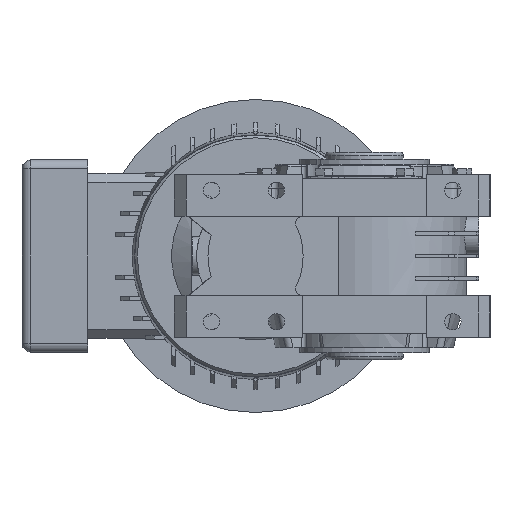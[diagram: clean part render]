
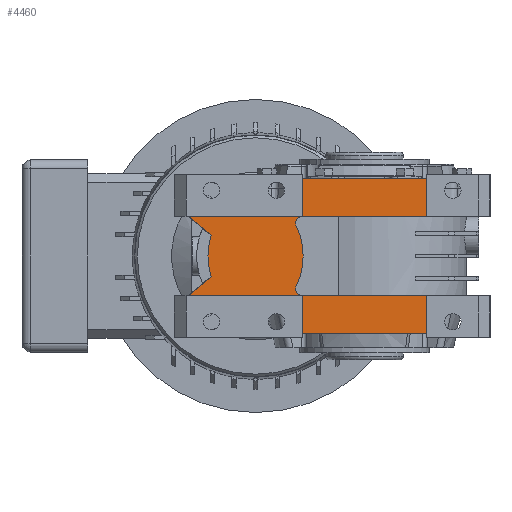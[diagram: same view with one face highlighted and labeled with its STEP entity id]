
A CAD part, left-side view. The second image highlights one B-rep face of the part: STEP entity #4460.
In plain terms, the highlighted planar face has unit normal (-1, 0, 0).
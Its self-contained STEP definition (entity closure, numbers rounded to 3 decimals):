
#4460 = ADVANCED_FACE( '', ( #9248 ), #9249, .T. );
#9248 = FACE_OUTER_BOUND( '', #17129, .T. );
#9249 = PLANE( '', #17130 );
#17129 = EDGE_LOOP( '', ( #31101, #31102, #31103, #31104, #31105, #31106, #31107, #31108, #31109, #31110, #31111, #31112, #31113, #31114, #31115, #31116, #31117, #31118 ) );
#17130 = AXIS2_PLACEMENT_3D( '', #31119, #31120, #31121 );
#31101 = ORIENTED_EDGE( '', *, *, #36991, .T. );
#31102 = ORIENTED_EDGE( '', *, *, #37288, .T. );
#31103 = ORIENTED_EDGE( '', *, *, #36504, .T. );
#31104 = ORIENTED_EDGE( '', *, *, #37237, .T. );
#31105 = ORIENTED_EDGE( '', *, *, #37291, .F. );
#31106 = ORIENTED_EDGE( '', *, *, #33660, .F. );
#31107 = ORIENTED_EDGE( '', *, *, #34036, .T. );
#31108 = ORIENTED_EDGE( '', *, *, #36745, .T. );
#31109 = ORIENTED_EDGE( '', *, *, #37350, .T. );
#31110 = ORIENTED_EDGE( '', *, *, #36381, .F. );
#31111 = ORIENTED_EDGE( '', *, *, #36979, .F. );
#31112 = ORIENTED_EDGE( '', *, *, #35125, .T. );
#31113 = ORIENTED_EDGE( '', *, *, #35248, .F. );
#31114 = ORIENTED_EDGE( '', *, *, #36779, .F. );
#31115 = ORIENTED_EDGE( '', *, *, #33025, .T. );
#31116 = ORIENTED_EDGE( '', *, *, #36012, .F. );
#31117 = ORIENTED_EDGE( '', *, *, #35055, .T. );
#31118 = ORIENTED_EDGE( '', *, *, #36584, .T. );
#31119 = CARTESIAN_POINT( '', ( -71.5, 57.1, 0. ) );
#31120 = DIRECTION( '', ( -1., 0., 0. ) );
#31121 = DIRECTION( '', ( 0., 0., -1. ) );
#33025 = EDGE_CURVE( '', #39294, #39295, #39296, .T. );
#33660 = EDGE_CURVE( '', #40346, #40349, #40350, .T. );
#34036 = EDGE_CURVE( '', #40346, #40961, #40963, .T. );
#35055 = EDGE_CURVE( '', #42539, #42536, #42540, .T. );
#35125 = EDGE_CURVE( '', #42630, #42638, #42640, .T. );
#35248 = EDGE_CURVE( '', #42812, #42638, #42813, .T. );
#36012 = EDGE_CURVE( '', #42539, #39295, #43848, .T. );
#36381 = EDGE_CURVE( '', #44323, #44318, #44325, .T. );
#36504 = EDGE_CURVE( '', #44475, #44476, #44477, .T. );
#36584 = EDGE_CURVE( '', #42536, #44572, #44574, .T. );
#36745 = EDGE_CURVE( '', #40961, #44754, #44756, .T. );
#36779 = EDGE_CURVE( '', #39294, #42812, #44797, .T. );
#36979 = EDGE_CURVE( '', #42630, #44323, #45033, .T. );
#36991 = EDGE_CURVE( '', #44572, #45045, #45047, .T. );
#37237 = EDGE_CURVE( '', #44476, #45304, #45306, .T. );
#37288 = EDGE_CURVE( '', #45045, #44475, #45358, .T. );
#37291 = EDGE_CURVE( '', #40349, #45304, #45361, .T. );
#37350 = EDGE_CURVE( '', #44754, #44318, #45421, .T. );
#39294 = VERTEX_POINT( '', #48673 );
#39295 = VERTEX_POINT( '', #48674 );
#39296 = CIRCLE( '', #48675, 39.9 );
#40346 = VERTEX_POINT( '', #50458 );
#40349 = VERTEX_POINT( '', #50462 );
#40350 = CIRCLE( '', #50463, 4. );
#40961 = VERTEX_POINT( '', #51524 );
#40963 = CIRCLE( '', #51527, 39.9 );
#42536 = VERTEX_POINT( '', #54305 );
#42539 = VERTEX_POINT( '', #54309 );
#42540 = LINE( '', #54310, #54311 );
#42630 = VERTEX_POINT( '', #54433 );
#42638 = VERTEX_POINT( '', #54445 );
#42640 = LINE( '', #54448, #54449 );
#42812 = VERTEX_POINT( '', #54729 );
#42813 = LINE( '', #54730, #54731 );
#43848 = LINE( '', #56851, #56852 );
#44318 = VERTEX_POINT( '', #57710 );
#44323 = VERTEX_POINT( '', #57718 );
#44325 = LINE( '', #57721, #57722 );
#44475 = VERTEX_POINT( '', #57953 );
#44476 = VERTEX_POINT( '', #57954 );
#44477 = LINE( '', #57955, #57956 );
#44572 = VERTEX_POINT( '', #58076 );
#44574 = LINE( '', #58079, #58080 );
#44754 = VERTEX_POINT( '', #58400 );
#44756 = CIRCLE( '', #58403, 4. );
#44797 = LINE( '', #58458, #58459 );
#45033 = LINE( '', #58812, #58813 );
#45045 = VERTEX_POINT( '', #58830 );
#45047 = LINE( '', #58833, #58834 );
#45304 = VERTEX_POINT( '', #59261 );
#45306 = LINE( '', #59264, #59265 );
#45358 = LINE( '', #59325, #59326 );
#45361 = LINE( '', #59330, #59331 );
#45421 = LINE( '', #59406, #59407 );
#48673 = CARTESIAN_POINT( '', ( -71.5, 88.702, 11.842 ) );
#48674 = CARTESIAN_POINT( '', ( -71.5, 88.702, -11.842 ) );
#48675 = AXIS2_PLACEMENT_3D( '', #60826, #60827, #60828 );
#50458 = CARTESIAN_POINT( '', ( -71.5, 39.431, -17.269 ) );
#50462 = CARTESIAN_POINT( '', ( -71.5, 35.825, -23. ) );
#50463 = AXIS2_PLACEMENT_3D( '', #61579, #61580, #61581 );
#51524 = CARTESIAN_POINT( '', ( -71.5, 39.431, 17.269 ) );
#51527 = AXIS2_PLACEMENT_3D( '', #62022, #62023, #62024 );
#54305 = CARTESIAN_POINT( '', ( -71.5, 103.2, -23. ) );
#54309 = CARTESIAN_POINT( '', ( -71.5, 102., -23. ) );
#54310 = CARTESIAN_POINT( '', ( -71.5, 36., -23. ) );
#54311 = VECTOR( '', #63314, 1000. );
#54433 = CARTESIAN_POINT( '', ( -71.5, 36., 45. ) );
#54445 = CARTESIAN_POINT( '', ( -71.5, 36., 23. ) );
#54448 = CARTESIAN_POINT( '', ( -71.5, 36., 47. ) );
#54449 = VECTOR( '', #63397, 1000. );
#54729 = CARTESIAN_POINT( '', ( -71.5, 102., 23. ) );
#54730 = CARTESIAN_POINT( '', ( -71.5, 99., 23. ) );
#54731 = VECTOR( '', #63556, 1000. );
#56851 = CARTESIAN_POINT( '', ( -71.5, 102., -23. ) );
#56852 = VECTOR( '', #64457, 1000. );
#57710 = CARTESIAN_POINT( '', ( -71.5, -36., 23. ) );
#57718 = CARTESIAN_POINT( '', ( -71.5, -36., 45. ) );
#57721 = CARTESIAN_POINT( '', ( -71.5, -36., 45. ) );
#57722 = VECTOR( '', #64856, 1000. );
#57953 = CARTESIAN_POINT( '', ( -71.5, 36., -45. ) );
#57954 = CARTESIAN_POINT( '', ( -71.5, -36., -45. ) );
#57955 = CARTESIAN_POINT( '', ( -71.5, 219.136, -45. ) );
#57956 = VECTOR( '', #64996, 1000. );
#58076 = CARTESIAN_POINT( '', ( -71.5, 103.2, -23.01 ) );
#58079 = CARTESIAN_POINT( '', ( -71.5, 103.2, -23.01 ) );
#58080 = VECTOR( '', #65104, 1000. );
#58400 = CARTESIAN_POINT( '', ( -71.5, 35.825, 23. ) );
#58403 = AXIS2_PLACEMENT_3D( '', #65264, #65265, #65266 );
#58458 = CARTESIAN_POINT( '', ( -71.5, 93.653, 15.996 ) );
#58459 = VECTOR( '', #65290, 1000. );
#58812 = CARTESIAN_POINT( '', ( -71.5, 219.136, 45. ) );
#58813 = VECTOR( '', #65518, 1000. );
#58830 = CARTESIAN_POINT( '', ( -71.5, 36., -23.01 ) );
#58833 = CARTESIAN_POINT( '', ( -71.5, 36., -23.01 ) );
#58834 = VECTOR( '', #65525, 1000. );
#59261 = CARTESIAN_POINT( '', ( -71.5, -36., -23. ) );
#59264 = CARTESIAN_POINT( '', ( -71.5, -36., -45. ) );
#59265 = VECTOR( '', #65651, 1000. );
#59325 = CARTESIAN_POINT( '', ( -71.5, 36., -47. ) );
#59326 = VECTOR( '', #65672, 1000. );
#59330 = CARTESIAN_POINT( '', ( -71.5, 219.136, -23. ) );
#59331 = VECTOR( '', #65674, 1000. );
#59406 = CARTESIAN_POINT( '', ( -71.5, 219.136, 23. ) );
#59407 = VECTOR( '', #65702, 1000. );
#60826 = CARTESIAN_POINT( '', ( -71.5, 50.6, 0. ) );
#60827 = DIRECTION( '', ( -1., 0., 0. ) );
#60828 = DIRECTION( '', ( 0., -1., 0. ) );
#61579 = CARTESIAN_POINT( '', ( -71.5, 35.825, -19. ) );
#61580 = DIRECTION( '', ( -1., 0., 0. ) );
#61581 = DIRECTION( '', ( 0., -1., 0. ) );
#62022 = CARTESIAN_POINT( '', ( -71.5, 75.4, 0. ) );
#62023 = DIRECTION( '', ( -1., 0., 0. ) );
#62024 = DIRECTION( '', ( 0., 1., 0. ) );
#63314 = DIRECTION( '', ( 0., 1., 0. ) );
#63397 = DIRECTION( '', ( 0., 0., -1. ) );
#63556 = DIRECTION( '', ( 0., -1., 0. ) );
#64457 = DIRECTION( '', ( 0., -0.766, 0.643 ) );
#64856 = DIRECTION( '', ( 0., 0., -1. ) );
#64996 = DIRECTION( '', ( 0., -1., 0. ) );
#65104 = DIRECTION( '', ( 0., 0., -1. ) );
#65264 = CARTESIAN_POINT( '', ( -71.5, 35.825, 19. ) );
#65265 = DIRECTION( '', ( 1., 0., 0. ) );
#65266 = DIRECTION( '', ( 0., 1., 0. ) );
#65290 = DIRECTION( '', ( 0., 0.766, 0.643 ) );
#65518 = DIRECTION( '', ( 0., -1., 0. ) );
#65525 = DIRECTION( '', ( 0., -1., 0. ) );
#65651 = DIRECTION( '', ( 0., 0., 1. ) );
#65672 = DIRECTION( '', ( 0., 0., -1. ) );
#65674 = DIRECTION( '', ( 0., -1., 0. ) );
#65702 = DIRECTION( '', ( 0., -1., 0. ) );
